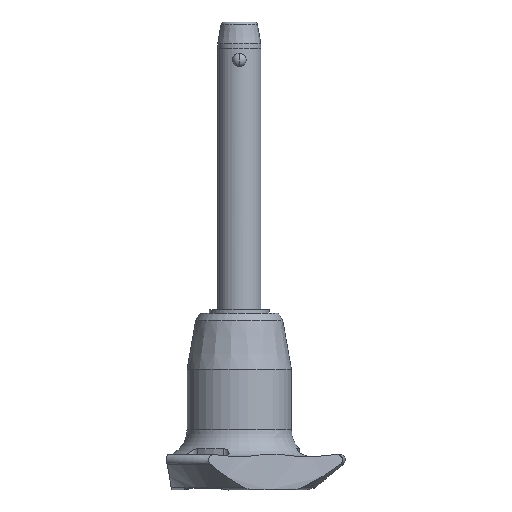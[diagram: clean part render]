
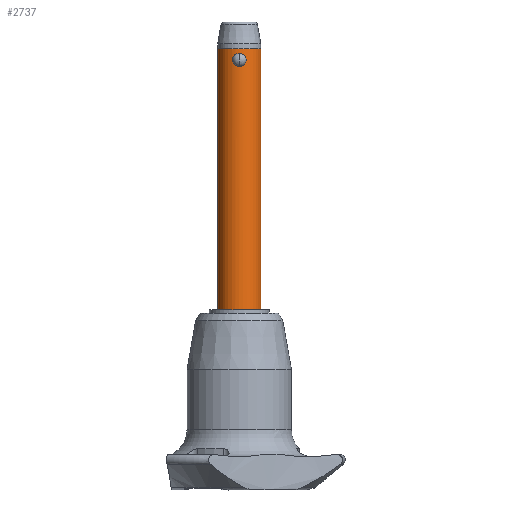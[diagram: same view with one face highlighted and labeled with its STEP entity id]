
A CAD part, front view. The second image highlights one B-rep face of the part: STEP entity #2737.
In plain terms, the highlighted cylindrical face has radius 4 mm (diameter 8 mm), a partial arc.
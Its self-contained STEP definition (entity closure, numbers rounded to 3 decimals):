
#22 = CARTESIAN_POINT ( 'NONE',  ( 0.944, -3.887, 0.391 ) ) ;
#35 = CARTESIAN_POINT ( 'NONE',  ( 0.768, -3.927, 0.228 ) ) ;
#70 = DIRECTION ( 'NONE',  ( 1., 0., 0. ) ) ;
#77 = VERTEX_POINT ( 'NONE', #2244 ) ;
#131 = CARTESIAN_POINT ( 'NONE',  ( -1.101, -3.846, 0.579 ) ) ;
#141 = DIRECTION ( 'NONE',  ( 0., 0., 1. ) ) ;
#157 = CARTESIAN_POINT ( 'NONE',  ( -0.762, -3.927, 2.166 ) ) ;
#165 = CARTESIAN_POINT ( 'NONE',  ( -0.553, -3.962, 2.285 ) ) ;
#166 = ORIENTED_EDGE ( 'NONE', *, *, #919, .F. ) ;
#179 = CARTESIAN_POINT ( 'NONE',  ( -1.266, -3.794, 1.364 ) ) ;
#212 = CARTESIAN_POINT ( 'NONE',  ( 1.101, -3.846, 1.82 ) ) ;
#243 = CARTESIAN_POINT ( 'NONE',  ( 0., -4., 2.4 ) ) ;
#278 = CYLINDRICAL_SURFACE ( 'NONE', #2563, 4. ) ;
#296 = ORIENTED_EDGE ( 'NONE', *, *, #2346, .F. ) ;
#332 = FACE_BOUND ( 'NONE', #573, .T. ) ;
#379 = CARTESIAN_POINT ( 'NONE',  ( -0.768, -3.927, 0.228 ) ) ;
#428 = CARTESIAN_POINT ( 'NONE',  ( 0.629, -3.953, 2.256 ) ) ;
#443 = CARTESIAN_POINT ( 'NONE',  ( 0.627, -3.953, 0.143 ) ) ;
#461 = CARTESIAN_POINT ( 'NONE',  ( 0., 0., -45. ) ) ;
#499 = ORIENTED_EDGE ( 'NONE', *, *, #2503, .F. ) ;
#502 = CIRCLE ( 'NONE', #2106, 4. ) ;
#573 = EDGE_LOOP ( 'NONE', ( #499, #166 ) ) ;
#575 = LINE ( 'NONE', #1058, #1778 ) ;
#593 = CARTESIAN_POINT ( 'NONE',  ( 1.224, -3.808, 1.52 ) ) ;
#595 = CARTESIAN_POINT ( 'NONE',  ( -0.827, -3.914, 2.117 ) ) ;
#640 = CARTESIAN_POINT ( 'NONE',  ( 0.326, -3.99, 2.371 ) ) ;
#667 = CARTESIAN_POINT ( 'NONE',  ( 1.005, -3.874, 1.953 ) ) ;
#676 = VERTEX_POINT ( 'NONE', #705 ) ;
#705 = CARTESIAN_POINT ( 'NONE',  ( -4., 0., -45. ) ) ;
#734 = B_SPLINE_CURVE_WITH_KNOTS ( 'NONE', 3,
 ( #2090, #1893, #2531, #165, #1245, #157, #595, #1662, #2316, #2580, #1034, #1025, #179, #2305, #1905, #1684, #2559, #131, #1473, #379, #1229, #1930, #1050, #1264 ),
 .UNSPECIFIED., .F., .F.,
 ( 4, 2, 2, 2, 2, 2, 2, 2, 2, 2, 2, 4 ),
 ( 0., 0., 0.001, 0.001, 0.001, 0.001, 0.002, 0.002, 0.002, 0.003, 0.003, 0.004 ),
 .UNSPECIFIED. ) ;
#782 = VERTEX_POINT ( 'NONE', #791 ) ;
#791 = CARTESIAN_POINT ( 'NONE',  ( 4., 0., 3.28 ) ) ;
#803 = CARTESIAN_POINT ( 'NONE',  ( 1.258, -3.797, 1.361 ) ) ;
#804 = CARTESIAN_POINT ( 'NONE',  ( -4., 0., -45. ) ) ;
#849 = CARTESIAN_POINT ( 'NONE',  ( 0.164, -4., 2.4 ) ) ;
#879 = CARTESIAN_POINT ( 'NONE',  ( 1.132, -3.836, 0.651 ) ) ;
#880 = DIRECTION ( 'NONE',  ( 0., 0., -1. ) ) ;
#919 = EDGE_CURVE ( 'NONE', #77, #1218, #1260, .T. ) ;
#949 = CIRCLE ( 'NONE', #2745, 4. ) ;
#1024 = CARTESIAN_POINT ( 'NONE',  ( 0.999, -3.874, 0.452 ) ) ;
#1025 = CARTESIAN_POINT ( 'NONE',  ( -1.231, -3.806, 1.527 ) ) ;
#1034 = CARTESIAN_POINT ( 'NONE',  ( -1.133, -3.836, 1.747 ) ) ;
#1050 = CARTESIAN_POINT ( 'NONE',  ( -0.162, -4., 0. ) ) ;
#1058 = CARTESIAN_POINT ( 'NONE',  ( 4., 0., -45. ) ) ;
#1070 = CARTESIAN_POINT ( 'NONE',  ( 0.326, -3.99, 0.029 ) ) ;
#1084 = CARTESIAN_POINT ( 'NONE',  ( 0.162, -4., 0. ) ) ;
#1140 = CARTESIAN_POINT ( 'NONE',  ( 0., 0., 3.28 ) ) ;
#1147 = CARTESIAN_POINT ( 'NONE',  ( 0., 0., -45. ) ) ;
#1218 = VERTEX_POINT ( 'NONE', #1901 ) ;
#1229 = CARTESIAN_POINT ( 'NONE',  ( -0.628, -3.953, 0.143 ) ) ;
#1245 = CARTESIAN_POINT ( 'NONE',  ( -0.625, -3.951, 2.25 ) ) ;
#1259 = ORIENTED_EDGE ( 'NONE', *, *, #2450, .F. ) ;
#1260 = B_SPLINE_CURVE_WITH_KNOTS ( 'NONE', 3,
 ( #2819, #1084, #1070, #443, #35, #22, #1024, #1472, #879, #1904, #2558, #1321, #803, #593, #1948, #212, #667, #1521, #428, #640, #849, #243 ),
 .UNSPECIFIED., .F., .F.,
 ( 4, 2, 2, 2, 2, 2, 2, 2, 2, 2, 4 ),
 ( 0.004, 0.004, 0.005, 0.005, 0.005, 0.006, 0.006, 0.006, 0.007, 0.007, 0.008 ),
 .UNSPECIFIED. ) ;
#1264 = CARTESIAN_POINT ( 'NONE',  ( 0., -4., 0. ) ) ;
#1280 = EDGE_CURVE ( 'NONE', #1634, #782, #575, .T. ) ;
#1294 = EDGE_CURVE ( 'NONE', #1634, #676, #949, .T. ) ;
#1321 = CARTESIAN_POINT ( 'NONE',  ( 1.266, -3.794, 1.281 ) ) ;
#1339 = DIRECTION ( 'NONE',  ( 1., 0., 0. ) ) ;
#1368 = CARTESIAN_POINT ( 'NONE',  ( -4., 0., 3.28 ) ) ;
#1472 = CARTESIAN_POINT ( 'NONE',  ( 1.092, -3.848, 0.582 ) ) ;
#1473 = CARTESIAN_POINT ( 'NONE',  ( -1.005, -3.874, 0.447 ) ) ;
#1521 = CARTESIAN_POINT ( 'NONE',  ( 0.769, -3.927, 2.171 ) ) ;
#1544 = ORIENTED_EDGE ( 'NONE', *, *, #1280, .T. ) ;
#1590 = LINE ( 'NONE', #804, #2377 ) ;
#1599 = FACE_OUTER_BOUND ( 'NONE', #1675, .T. ) ;
#1634 = VERTEX_POINT ( 'NONE', #1832 ) ;
#1662 = CARTESIAN_POINT ( 'NONE',  ( -0.945, -3.887, 2.008 ) ) ;
#1675 = EDGE_LOOP ( 'NONE', ( #1259, #1876, #1544, #296 ) ) ;
#1684 = CARTESIAN_POINT ( 'NONE',  ( -1.224, -3.808, 0.879 ) ) ;
#1778 = VECTOR ( 'NONE', #141, 1000. ) ;
#1832 = CARTESIAN_POINT ( 'NONE',  ( 4., 0., -45. ) ) ;
#1834 = DIRECTION ( 'NONE',  ( 1., 0., 0. ) ) ;
#1876 = ORIENTED_EDGE ( 'NONE', *, *, #1294, .F. ) ;
#1893 = CARTESIAN_POINT ( 'NONE',  ( -0.164, -4., 2.4 ) ) ;
#1901 = CARTESIAN_POINT ( 'NONE',  ( 0., -4., 2.4 ) ) ;
#1904 = CARTESIAN_POINT ( 'NONE',  ( 1.231, -3.806, 0.873 ) ) ;
#1905 = CARTESIAN_POINT ( 'NONE',  ( -1.258, -3.797, 1.038 ) ) ;
#1930 = CARTESIAN_POINT ( 'NONE',  ( -0.326, -3.99, 0.029 ) ) ;
#1948 = CARTESIAN_POINT ( 'NONE',  ( 1.199, -3.816, 1.599 ) ) ;
#2029 = DIRECTION ( 'NONE',  ( 0., 0., 1. ) ) ;
#2090 = CARTESIAN_POINT ( 'NONE',  ( 0., -4., 2.4 ) ) ;
#2106 = AXIS2_PLACEMENT_3D ( 'NONE', #1140, #2675, #1834 ) ;
#2244 = CARTESIAN_POINT ( 'NONE',  ( 0., -4., 0. ) ) ;
#2305 = CARTESIAN_POINT ( 'NONE',  ( -1.266, -3.794, 1.12 ) ) ;
#2316 = CARTESIAN_POINT ( 'NONE',  ( -0.998, -3.874, 1.949 ) ) ;
#2346 = EDGE_CURVE ( 'NONE', #2549, #782, #502, .T. ) ;
#2377 = VECTOR ( 'NONE', #2754, 1000. ) ;
#2450 = EDGE_CURVE ( 'NONE', #676, #2549, #1590, .T. ) ;
#2503 = EDGE_CURVE ( 'NONE', #1218, #77, #734, .T. ) ;
#2531 = CARTESIAN_POINT ( 'NONE',  ( -0.325, -3.99, 2.371 ) ) ;
#2549 = VERTEX_POINT ( 'NONE', #1368 ) ;
#2558 = CARTESIAN_POINT ( 'NONE',  ( 1.266, -3.794, 1.035 ) ) ;
#2559 = CARTESIAN_POINT ( 'NONE',  ( -1.199, -3.816, 0.802 ) ) ;
#2563 = AXIS2_PLACEMENT_3D ( 'NONE', #1147, #2029, #70 ) ;
#2580 = CARTESIAN_POINT ( 'NONE',  ( -1.092, -3.848, 1.818 ) ) ;
#2675 = DIRECTION ( 'NONE',  ( 0., 0., 1. ) ) ;
#2737 = ADVANCED_FACE ( 'NONE', ( #1599, #332 ), #278, .T. ) ;
#2745 = AXIS2_PLACEMENT_3D ( 'NONE', #461, #880, #1339 ) ;
#2754 = DIRECTION ( 'NONE',  ( 0., 0., 1. ) ) ;
#2819 = CARTESIAN_POINT ( 'NONE',  ( 0., -4., 0. ) ) ;
